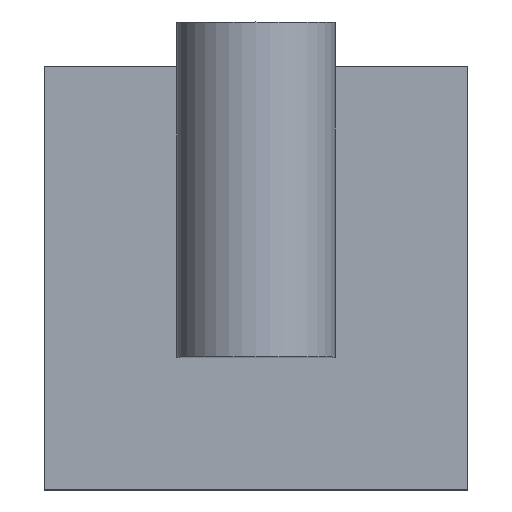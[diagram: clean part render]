
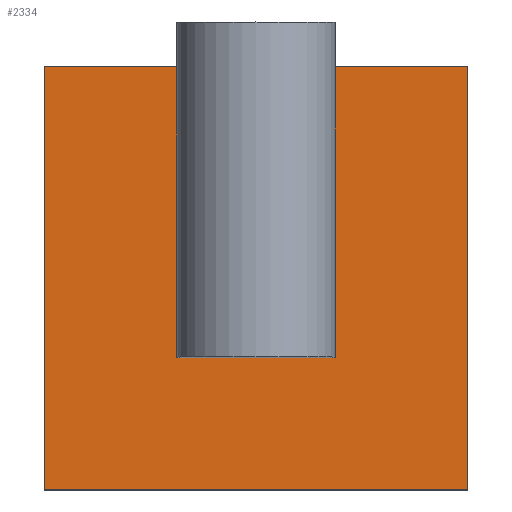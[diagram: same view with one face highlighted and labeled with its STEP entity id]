
A CAD part, top view. The second image highlights one B-rep face of the part: STEP entity #2334.
In plain terms, the highlighted planar face has unit normal (0, 0, 1).
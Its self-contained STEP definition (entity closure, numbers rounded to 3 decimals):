
#193=FACE_OUTER_BOUND('',#321,.T.);
#321=EDGE_LOOP('',(#1539,#1540,#1541,#1542));
#462=LINE('',#3393,#703);
#463=LINE('',#3395,#704);
#464=LINE('',#3397,#705);
#465=LINE('',#3398,#706);
#703=VECTOR('',#2706,10.);
#704=VECTOR('',#2707,10.);
#705=VECTOR('',#2708,10.);
#706=VECTOR('',#2709,10.);
#944=VERTEX_POINT('',#3391);
#945=VERTEX_POINT('',#3392);
#946=VERTEX_POINT('',#3394);
#947=VERTEX_POINT('',#3396);
#1184=EDGE_CURVE('',#944,#945,#462,.T.);
#1185=EDGE_CURVE('',#946,#944,#463,.T.);
#1186=EDGE_CURVE('',#947,#946,#464,.T.);
#1187=EDGE_CURVE('',#945,#947,#465,.T.);
#1539=ORIENTED_EDGE('',*,*,#1184,.F.);
#1540=ORIENTED_EDGE('',*,*,#1185,.F.);
#1541=ORIENTED_EDGE('',*,*,#1186,.F.);
#1542=ORIENTED_EDGE('',*,*,#1187,.F.);
#2249=PLANE('',#2480);
#2334=ADVANCED_FACE('',(#193),#2249,.T.);
#2480=AXIS2_PLACEMENT_3D('',#3390,#2704,#2705);
#2704=DIRECTION('center_axis',(0.,0.,1.));
#2705=DIRECTION('ref_axis',(0.,-1.,0.));
#2706=DIRECTION('',(-1.,0.,0.));
#2707=DIRECTION('',(0.,-1.,0.));
#2708=DIRECTION('',(1.,0.,0.));
#2709=DIRECTION('',(0.,1.,0.));
#3390=CARTESIAN_POINT('Origin',(-24.96,-1.,4.));
#3391=CARTESIAN_POINT('',(24.,-25.,4.));
#3392=CARTESIAN_POINT('',(-24.,-25.,4.));
#3393=CARTESIAN_POINT('',(24.,-25.,4.));
#3394=CARTESIAN_POINT('',(24.,23.,4.));
#3395=CARTESIAN_POINT('',(24.,23.,4.));
#3396=CARTESIAN_POINT('',(-24.,23.,4.));
#3397=CARTESIAN_POINT('',(-24.,23.,4.));
#3398=CARTESIAN_POINT('',(-24.,-25.,4.));
